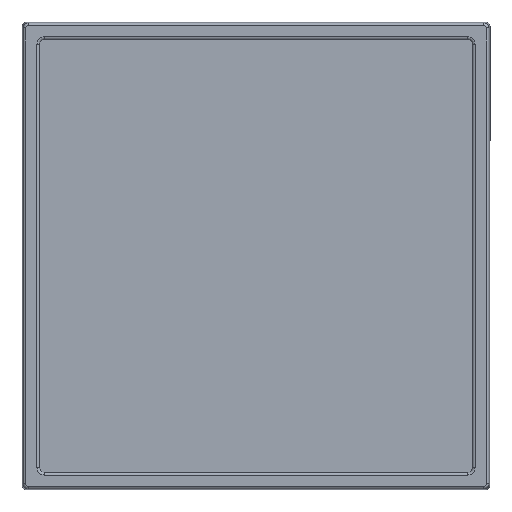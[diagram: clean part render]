
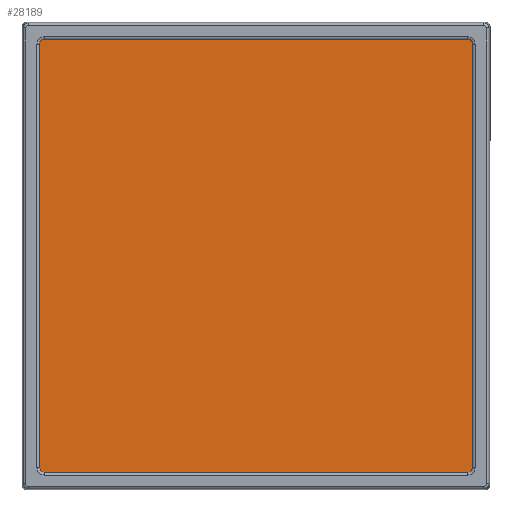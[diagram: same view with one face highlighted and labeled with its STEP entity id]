
A CAD part, top view. The second image highlights one B-rep face of the part: STEP entity #28189.
In plain terms, the highlighted planar face has unit normal (0, 0, 1).
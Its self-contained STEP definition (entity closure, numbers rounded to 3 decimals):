
#27579=CARTESIAN_POINT('',(-66.657,-65.057,45.6));
#27580=VERTEX_POINT('',#27579);
#27587=CARTESIAN_POINT('',(-66.657,65.157,45.6));
#27588=VERTEX_POINT('',#27587);
#27589=CARTESIAN_POINT('',(-66.657,-65.057,45.6));
#27590=DIRECTION('',(0.0,1.0,0.0));
#27591=VECTOR('',#27590,130.214);
#27592=LINE('',#27589,#27591);
#27593=EDGE_CURVE('',#27580,#27588,#27592,.T.);
#27619=CARTESIAN_POINT('',(-65.157,66.657,45.6));
#27620=VERTEX_POINT('',#27619);
#27621=CARTESIAN_POINT('',(-65.157,65.157,45.6));
#27622=DIRECTION('',(0.,0.,-1.0));
#27623=DIRECTION('',(-0.707,0.707,0.));
#27624=AXIS2_PLACEMENT_3D('',#27621,#27622,#27623);
#27625=CIRCLE('',#27624,1.5);
#27626=EDGE_CURVE('',#27588,#27620,#27625,.T.);
#27651=CARTESIAN_POINT('',(65.057,66.657,45.6));
#27652=VERTEX_POINT('',#27651);
#27653=CARTESIAN_POINT('',(-65.157,66.657,45.6));
#27654=DIRECTION('',(1.0,0.0,0.0));
#27655=VECTOR('',#27654,130.214);
#27656=LINE('',#27653,#27655);
#27657=EDGE_CURVE('',#27620,#27652,#27656,.T.);
#27683=CARTESIAN_POINT('',(66.557,65.157,45.6));
#27684=VERTEX_POINT('',#27683);
#27685=CARTESIAN_POINT('',(65.057,65.157,45.6));
#27686=DIRECTION('',(0.,0.,-1.0));
#27687=DIRECTION('',(0.707,0.707,0.));
#27688=AXIS2_PLACEMENT_3D('',#27685,#27686,#27687);
#27689=CIRCLE('',#27688,1.5);
#27690=EDGE_CURVE('',#27652,#27684,#27689,.T.);
#27801=CARTESIAN_POINT('',(66.557,-65.057,45.6));
#27802=VERTEX_POINT('',#27801);
#27803=CARTESIAN_POINT('',(66.557,65.157,45.6));
#27804=DIRECTION('',(0.0,-1.0,0.0));
#27805=VECTOR('',#27804,130.214);
#27806=LINE('',#27803,#27805);
#27807=EDGE_CURVE('',#27684,#27802,#27806,.T.);
#27833=CARTESIAN_POINT('',(65.057,-66.557,45.6));
#27834=VERTEX_POINT('',#27833);
#27835=CARTESIAN_POINT('',(65.057,-65.057,45.6));
#27836=DIRECTION('',(0.,0.,-1.0));
#27837=DIRECTION('',(0.707,-0.707,0.));
#27838=AXIS2_PLACEMENT_3D('',#27835,#27836,#27837);
#27839=CIRCLE('',#27838,1.5);
#27840=EDGE_CURVE('',#27802,#27834,#27839,.T.);
#27865=CARTESIAN_POINT('',(-65.157,-66.557,45.6));
#27866=VERTEX_POINT('',#27865);
#27867=CARTESIAN_POINT('',(65.057,-66.557,45.6));
#27868=DIRECTION('',(-1.0,0.0,0.0));
#27869=VECTOR('',#27868,130.214);
#27870=LINE('',#27867,#27869);
#27871=EDGE_CURVE('',#27834,#27866,#27870,.T.);
#27895=CARTESIAN_POINT('',(-65.157,-65.057,45.6));
#27896=DIRECTION('',(0.,0.,-1.0));
#27897=DIRECTION('',(-0.707,-0.707,0.));
#27898=AXIS2_PLACEMENT_3D('',#27895,#27896,#27897);
#27899=CIRCLE('',#27898,1.5);
#27900=EDGE_CURVE('',#27866,#27580,#27899,.T.);
#28174=CARTESIAN_POINT('',(-0.05,0.05,45.6));
#28175=DIRECTION('',(0.0,0.0,1.0));
#28176=DIRECTION('',(1.0,0.0,0.0));
#28177=AXIS2_PLACEMENT_3D('',#28174,#28175,#28176);
#28178=PLANE('',#28177);
#28179=ORIENTED_EDGE('',*,*,#27900,.F.);
#28180=ORIENTED_EDGE('',*,*,#27871,.F.);
#28181=ORIENTED_EDGE('',*,*,#27840,.F.);
#28182=ORIENTED_EDGE('',*,*,#27807,.F.);
#28183=ORIENTED_EDGE('',*,*,#27690,.F.);
#28184=ORIENTED_EDGE('',*,*,#27657,.F.);
#28185=ORIENTED_EDGE('',*,*,#27626,.F.);
#28186=ORIENTED_EDGE('',*,*,#27593,.F.);
#28187=EDGE_LOOP('',(#28179,#28180,#28181,#28182,#28183,#28184,#28185,#28186));
#28188=FACE_OUTER_BOUND('',#28187,.T.);
#28189=ADVANCED_FACE('',(#28188),#28178,.T.);
